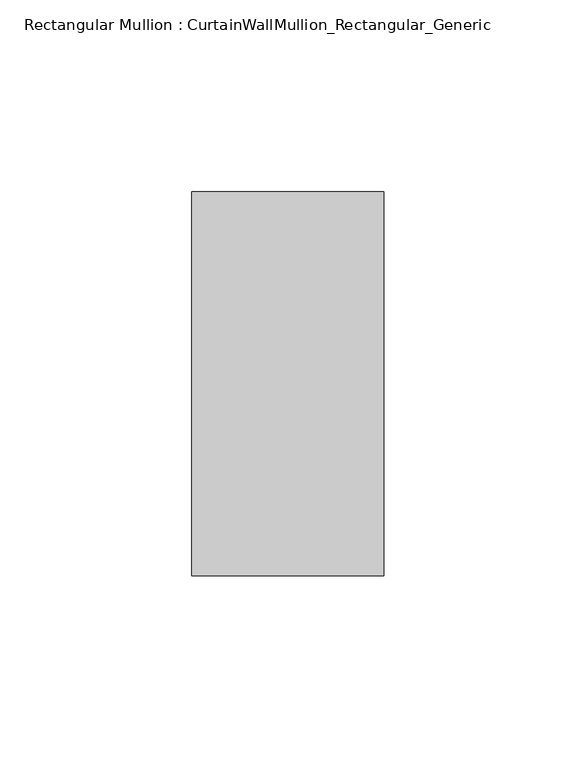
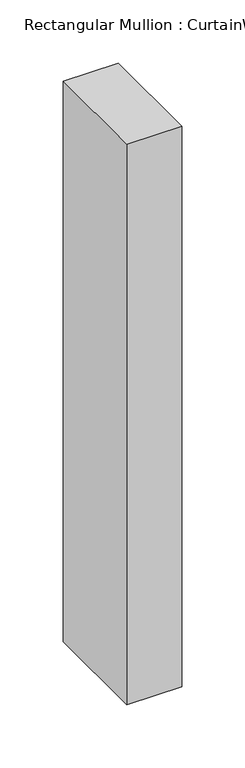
"""IFC4 building model written with IfcOpenShell, lengths in millimetres: member geometry, Rectangular Mullion : CurtainWallMullion_Rectangular_Generic."""

import ifcopenshell
import ifcopenshell.guid

model = None  # the IFC model being written
_history = None  # IfcOwnerHistory: only IFC2X3 demands one
_inside = {}  # id of a spatial element -> (the spatial element, [elements in it])
_under = {}  # id of a project, library or spatial element -> (it, [spatial elements below it])
_declared = {}  # id of a project -> (the project, [libraries it declares])
_typed = {}  # id of a type object -> (the type object, [elements of that type])
_made_of = {}  # id of a material, layer set ... -> (it, [elements and type objects made of it])


def new_model(schema):
    """Start an empty IFC model of exactly this schema.

    Asked for "IFC4X3", IfcOpenShell would pick the latest addendum, in which some entities
    have other attributes; the version numbers below select the first issue.
    IFC2X3 requires an IfcOwnerHistory on every rooted entity: one is made here for all.
    """
    global model, _history
    if schema == "IFC4X3":
        model = ifcopenshell.file(schema_version=(4, 3, 0, 0))
    else:
        model = ifcopenshell.file(schema=schema)
    _inside.clear()
    _under.clear()
    _declared.clear()
    _typed.clear()
    _made_of.clear()
    _history = None
    if model.schema == "IFC2X3":
        org = make("IfcOrganization", Name="unknown")
        user = make(
            "IfcPersonAndOrganization",
            ThePerson=make("IfcPerson", FamilyName="unknown"),
            TheOrganization=org,
        )
        app = make(
            "IfcApplication",
            ApplicationDeveloper=org,
            Version="unknown",
            ApplicationFullName="unknown",
            ApplicationIdentifier="unknown",
        )
        _history = make(
            "IfcOwnerHistory",
            OwningUser=user,
            OwningApplication=app,
            ChangeAction="ADDED",
            CreationDate=0,
        )
    return model


def make(cls, **values):
    """One entity of the class cls with the attributes given. An attribute that is None is left unset."""
    return model.create_entity(
        cls, **{name: value for name, value in values.items() if value is not None}
    )


def rooted(cls, **values):
    """An entity with a GlobalId (a new one), such as an element, a storey or a relation."""
    return make(cls, GlobalId=ifcopenshell.guid.new(), OwnerHistory=_history, **values)


def si_unit(unit_type, name, prefix=None):
    """IfcSIUnit, for example si_unit("LENGTHUNIT", "METRE", prefix="MILLI")."""
    return make("IfcSIUnit", UnitType=unit_type, Prefix=prefix, Name=name)


def assignment(units):
    """IfcUnitAssignment: the units of a project."""
    return None if units is None else make("IfcUnitAssignment", Units=units)


def point(xyz):
    """IfcCartesianPoint."""
    return None if xyz is None else make("IfcCartesianPoint", Coordinates=xyz)


def direction(xyz):
    """IfcDirection."""
    return None if xyz is None else make("IfcDirection", DirectionRatios=xyz)


def frame(location, z_axis=None, x_axis=None):
    """IfcAxis2Placement3D, a coordinate frame: its origin and axes. An axis left out is left unset."""
    return make(
        "IfcAxis2Placement3D",
        Location=point(location),
        Axis=direction(z_axis),
        RefDirection=direction(x_axis),
    )


def origin():
    """The frame at (0, 0, 0) with its axes left unset."""
    return frame((0.0, 0.0, 0.0))


def place(relative_to, where):
    """IfcLocalPlacement: puts the frame where relative to a parent placement (None: the world)."""
    return make(
        "IfcLocalPlacement", PlacementRelTo=relative_to, RelativePlacement=where
    )


def context(
    kind, dimensions, precision=None, world=None, true_north=None, identifier=None
):
    """IfcGeometricRepresentationContext, for example the 3D "Model" context."""
    return make(
        "IfcGeometricRepresentationContext",
        ContextIdentifier=identifier,
        ContextType=kind,
        CoordinateSpaceDimension=dimensions,
        Precision=precision,
        WorldCoordinateSystem=world,
        TrueNorth=true_north,
    )


def project(units=None, contexts=None):
    """IfcProject with its units and contexts."""
    return rooted(
        "IfcProject",
        Name="project",
        RepresentationContexts=contexts,
        UnitsInContext=assignment(units),
    )


def spatial(cls, under=None, at=None, **own):
    """A site, building, storey or space (cls), placed at a placement, below another one or the project."""
    s = rooted(cls, ObjectPlacement=at, **own)
    if under is not None:
        _under.setdefault(under.id(), (under, []))[1].append(s)
    return s


def polyline(points):
    """IfcPolyline through the points."""
    return make("IfcPolyline", Points=[point(p) for p in points])


def outline(outer, holes=None, kind="AREA"):
    """IfcArbitraryClosedProfileDef: a profile drawn as a closed curve; with holes, ...WithVoids."""
    if holes is None:
        return make("IfcArbitraryClosedProfileDef", ProfileType=kind, OuterCurve=outer)
    return make(
        "IfcArbitraryProfileDefWithVoids",
        ProfileType=kind,
        OuterCurve=outer,
        InnerCurves=holes,
    )


def extrude(swept, where, along, depth):
    """IfcExtrudedAreaSolid: the profile swept, set in the frame where, extruded along a direction by depth."""
    return make(
        "IfcExtrudedAreaSolid",
        SweptArea=swept,
        Position=where,
        ExtrudedDirection=direction(along),
        Depth=depth,
    )


def shape(context_of_items, identifier, shape_type, items):
    """IfcShapeRepresentation: the items that make up one representation, for example the "Body"."""
    return make(
        "IfcShapeRepresentation",
        ContextOfItems=context_of_items,
        RepresentationIdentifier=identifier,
        RepresentationType=shape_type,
        Items=items,
    )


def source(mapping_origin, context_of_items, identifier, shape_type, items):
    """IfcRepresentationMap: a shape defined once, which mapped items show again and again."""
    return make(
        "IfcRepresentationMap",
        MappingOrigin=mapping_origin,
        MappedRepresentation=shape(context_of_items, identifier, shape_type, items),
    )


def transform(
    local_origin,
    x_axis=None,
    y_axis=None,
    z_axis=None,
    scale=None,
    scale2=None,
    scale3=None,
    uniform=True,
):
    """IfcCartesianTransformationOperator3D, or its non-uniform kind. x_axis, y_axis, z_axis: its Axis1, 2, 3."""
    if uniform:
        return make(
            "IfcCartesianTransformationOperator3D",
            Axis1=direction(x_axis),
            Axis2=direction(y_axis),
            LocalOrigin=point(local_origin),
            Scale=scale,
            Axis3=direction(z_axis),
        )
    return make(
        "IfcCartesianTransformationOperator3DnonUniform",
        Axis1=direction(x_axis),
        Axis2=direction(y_axis),
        LocalOrigin=point(local_origin),
        Scale=scale,
        Axis3=direction(z_axis),
        Scale2=scale2,
        Scale3=scale3,
    )


def mapped(mapping_source, mapping_target):
    """IfcMappedItem: shows the shape of a source again, moved by a transform."""
    return make(
        "IfcMappedItem", MappingSource=mapping_source, MappingTarget=mapping_target
    )


def made_of(thing, what):
    """Note that an element or type object is made of a material, layer set ...; save() writes the relation."""
    if what is not None:
        _made_of.setdefault(what.id(), (what, []))[1].append(thing)
    return thing


def element(
    cls,
    number,
    at=None,
    inside=None,
    cuts=None,
    type_object=None,
    material=None,
    context=None,
    identifier="Body",
    shape_type=None,
    held_by="IfcProductDefinitionShape",
    body=None,
    shapes=None,
    **own,
):
    """One element of the class cls, such as IfcWall. Its Tag is "e" and its number.

    at: its placement. inside: the storey or other place that contains it. cuts: it is an
    opening in that element (IfcRelVoidsElement). A single representation is given by context,
    identifier, shape_type and body (its items); several are given by shapes. held_by: the class
    of the entity that holds the representations. save() writes the other relations.
    """
    e = rooted(cls, Tag="e%d" % number, ObjectPlacement=at, **own)
    if body is not None:
        shapes = [shape(context, identifier, shape_type, body)]
    if shapes is not None:
        e.Representation = make(held_by, Representations=shapes)
    if inside is not None:
        _inside.setdefault(inside.id(), (inside, []))[1].append(e)
    if cuts is not None:
        rooted(
            "IfcRelVoidsElement", RelatingBuildingElement=cuts, RelatedOpeningElement=e
        )
    if type_object is not None:
        _typed.setdefault(type_object.id(), (type_object, []))[1].append(e)
    return made_of(e, material)


def aggregate(whole, parts):
    """IfcRelAggregates: a whole, such as a stair, and the parts it consists of."""
    return rooted("IfcRelAggregates", RelatingObject=whole, RelatedObjects=parts)


def save(model, path):
    """Write the relations noted so far, then the file.

    IfcRelAggregates (storeys below a building ...), IfcRelContainedInSpatialStructure (elements
    in a storey), IfcRelDefinesByType, IfcRelAssociatesMaterial and IfcRelDeclares: one each for
    every whole, place, type object, material and project.
    """
    for whole, parts in _under.values():
        aggregate(whole, parts)
    for where, things in _inside.values():
        rooted(
            "IfcRelContainedInSpatialStructure",
            RelatedElements=things,
            RelatingStructure=where,
        )
    for kind, things in _typed.values():
        rooted("IfcRelDefinesByType", RelatedObjects=things, RelatingType=kind)
    for what, things in _made_of.values():
        rooted("IfcRelAssociatesMaterial", RelatedObjects=things, RelatingMaterial=what)
    for by, libraries in _declared.values():
        rooted("IfcRelDeclares", RelatingContext=by, RelatedDefinitions=libraries)
    model.write(path)


def rectangular_mullion_curtainwallmullion_rectangular_generic_f1dbceae(model_context):
    return source(origin(), model_context, "Body", "SweptSolid", [
        extrude(outline(polyline([(0.0, 50.0), (0.0, -50.0), (-50.0, -50.0), (-50.0, 50.0), (0.0, 50.0)])), frame((0.0, 0.0, -540.0), z_axis=(0.0, 0.0, 1.0), x_axis=(1.0, 0.0, 0.0)), (0.0, 0.0, 1.0), 540.0),
    ])


if __name__ == "__main__":
    model = new_model("IFC4")
    model_context = context("Model", 3, world=origin())
    ifc_project = project(units=[si_unit("LENGTHUNIT", "METRE", prefix="MILLI")], contexts=[model_context])
    site = spatial("IfcSite", under=ifc_project)
    building = spatial("IfcBuilding", under=site)
    placement = place(None, origin())
    rectangular_mullion_curtainwallmullion_rectangular_generic_shape = rectangular_mullion_curtainwallmullion_rectangular_generic_f1dbceae(model_context)
    element("IfcMember", 1, ObjectType="Rectangular Mullion : CurtainWallMullion_Rectangular_Generic", at=placement, inside=building, context=model_context, shape_type="MappedRepresentation", body=[
        mapped(rectangular_mullion_curtainwallmullion_rectangular_generic_shape, transform((0.0, 0.0, 0.0), x_axis=(1.0, 0.0, 0.0), y_axis=(0.0, 1.0, 0.0), z_axis=(0.0, 0.0, 1.0))),
    ])
    save(model, "model.ifc")
